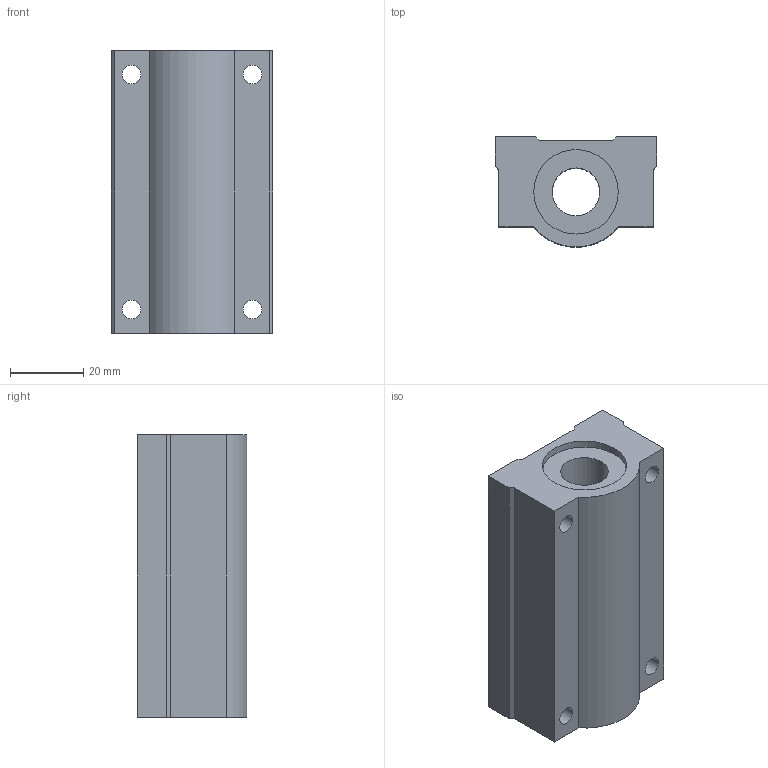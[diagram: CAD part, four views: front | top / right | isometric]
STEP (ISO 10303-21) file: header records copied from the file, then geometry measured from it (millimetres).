
FILE_DESCRIPTION((''),'2;1');
FILE_NAME('C:\Documents and Settings\ｿﾀﾀ蠑ｷ1\ｹﾙﾅﾁ ﾈｭｸ饅\ｺﾎﾇｰﾆﾄﾀﾏ\ﾁｦﾇｰ\SC__WUU\SC13WUU.stp','2005-06-22T14:56:16',('ｿﾀﾀ蠑ｷ1'),(''),'Autodesk Inventor 9','Autodesk Inventor 9','');
FILE_SCHEMA(('AUTOMOTIVE_DESIGN { 1 0 10303 214 1 1 1 1 }'));
Length unit declared in the file: millimetre
Products named in the file (1): SC__UU
Bounding box: 44 x 29.95 x 77 mm (x, y, z)
Volume: 72489.9 mm3; surface area: 17393.8 mm2
Topology: 1 solids, 1 shells, 32 faces, 84 edges, 56 vertices
Faces by surface type: plane 17, bspline 8, cylinder 7
Entity records: 1145 total; most frequent: CARTESIAN_POINT 309, ORIENTED_EDGE 168, DIRECTION 164, EDGE_CURVE 84, VERTEX_POINT 56, AXIS2_PLACEMENT_3D 55, VECTOR 54, LINE 54
